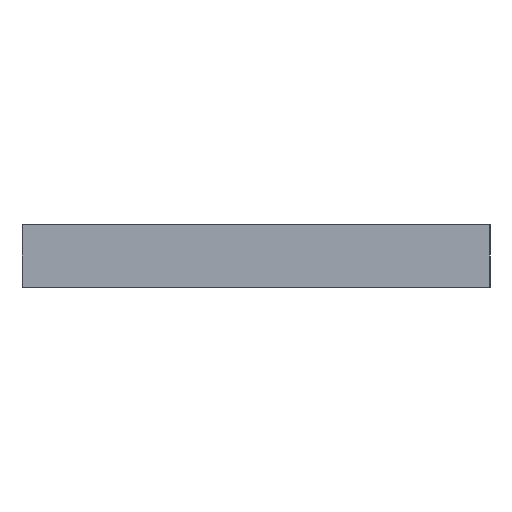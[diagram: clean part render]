
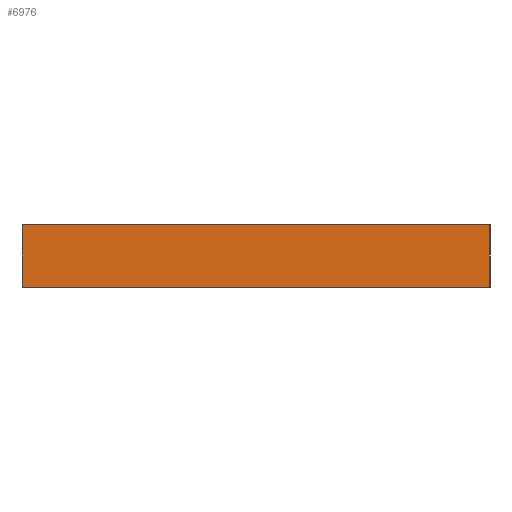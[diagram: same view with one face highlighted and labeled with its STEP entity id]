
A CAD part, left-side view. The second image highlights one B-rep face of the part: STEP entity #6976.
In plain terms, the highlighted planar face has unit normal (-1, 0, 0).
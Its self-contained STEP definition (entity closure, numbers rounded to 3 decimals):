
#842=FACE_OUTER_BOUND('',#1192,.T.);
#1192=EDGE_LOOP('',(#6413,#6414,#6415,#6416));
#1292=LINE('',#9935,#2008);
#1920=LINE('',#11748,#2636);
#1925=LINE('',#11757,#2641);
#1926=LINE('',#11759,#2642);
#2008=VECTOR('',#7891,10.);
#2636=VECTOR('',#9677,10.);
#2641=VECTOR('',#9686,10.);
#2642=VECTOR('',#9689,10.);
#2723=VERTEX_POINT('',#9933);
#2724=VERTEX_POINT('',#9934);
#3330=VERTEX_POINT('',#11746);
#3332=VERTEX_POINT('',#11755);
#3451=EDGE_CURVE('',#2723,#2724,#1292,.T.);
#4362=EDGE_CURVE('',#3330,#2723,#1920,.T.);
#4367=EDGE_CURVE('',#3332,#2724,#1925,.T.);
#4368=EDGE_CURVE('',#3330,#3332,#1926,.T.);
#6413=ORIENTED_EDGE('',*,*,#4368,.T.);
#6414=ORIENTED_EDGE('',*,*,#4367,.T.);
#6415=ORIENTED_EDGE('',*,*,#3451,.F.);
#6416=ORIENTED_EDGE('',*,*,#4362,.F.);
#6635=PLANE('',#7651);
#6976=ADVANCED_FACE('',(#842),#6635,.T.);
#7651=AXIS2_PLACEMENT_3D('',#11758,#9687,#9688);
#7891=DIRECTION('',(0.,-1.,0.));
#9677=DIRECTION('',(0.,0.,1.));
#9686=DIRECTION('',(0.,0.,1.));
#9687=DIRECTION('center_axis',(-1.,0.,0.));
#9688=DIRECTION('ref_axis',(0.,-1.,0.));
#9689=DIRECTION('',(0.,-1.,0.));
#9933=CARTESIAN_POINT('',(0.,30.,4.));
#9934=CARTESIAN_POINT('',(0.,0.,4.));
#9935=CARTESIAN_POINT('',(0.,30.,4.));
#11746=CARTESIAN_POINT('',(0.,30.,0.));
#11748=CARTESIAN_POINT('',(0.,30.,0.));
#11755=CARTESIAN_POINT('',(0.,0.,0.));
#11757=CARTESIAN_POINT('',(0.,0.,0.));
#11758=CARTESIAN_POINT('Origin',(0.,30.,0.));
#11759=CARTESIAN_POINT('',(0.,30.,0.));
